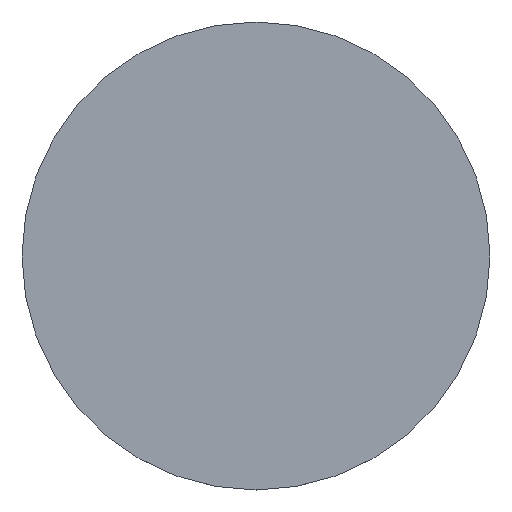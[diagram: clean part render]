
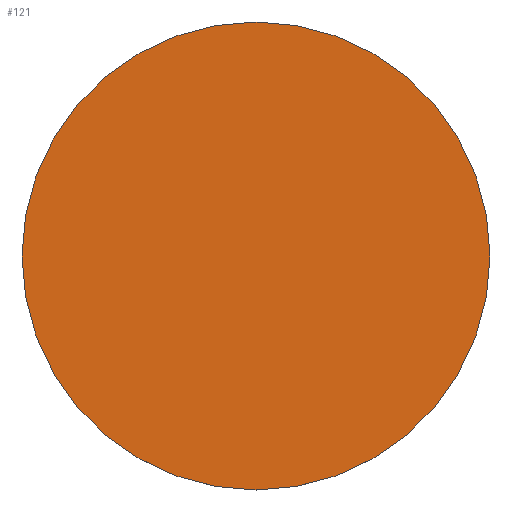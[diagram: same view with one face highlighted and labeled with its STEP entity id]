
A CAD part, top view. The second image highlights one B-rep face of the part: STEP entity #121.
In plain terms, the highlighted planar face has unit normal (0, 0, 1).
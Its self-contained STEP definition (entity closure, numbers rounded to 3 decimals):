
#121 = ADVANCED_FACE( '', ( #231 ), #232, .F. );
#231 = FACE_OUTER_BOUND( '', #360, .T. );
#232 = PLANE( '', #361 );
#360 = EDGE_LOOP( '', ( #524 ) );
#361 = AXIS2_PLACEMENT_3D( '', #525, #526, #527 );
#524 = ORIENTED_EDGE( '', *, *, #740, .F. );
#525 = CARTESIAN_POINT( '', ( -500., -500., 225.4 ) );
#526 = DIRECTION( '', ( 0., 0., -1. ) );
#527 = DIRECTION( '', ( -1., 0., 0. ) );
#740 = EDGE_CURVE( '', #862, #862, #863, .T. );
#862 = VERTEX_POINT( '', #1022 );
#863 = CIRCLE( '', #1023, 790. );
#1022 = CARTESIAN_POINT( '', ( 50., -790., 225.4 ) );
#1023 = AXIS2_PLACEMENT_3D( '', #1155, #1156, #1157 );
#1155 = CARTESIAN_POINT( '', ( 50., 0., 225.4 ) );
#1156 = DIRECTION( '', ( 0., 0., -1. ) );
#1157 = DIRECTION( '', ( 0., -1., 0. ) );
